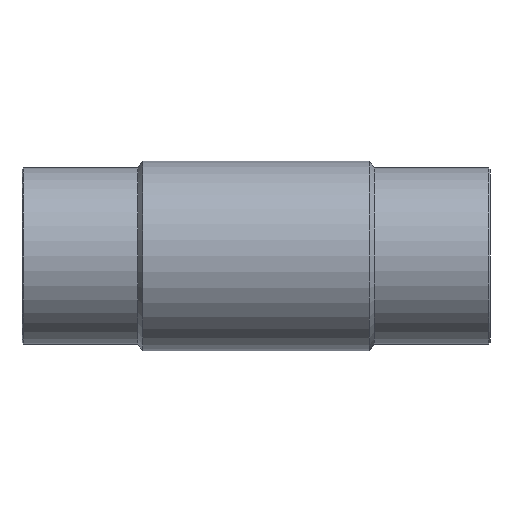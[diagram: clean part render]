
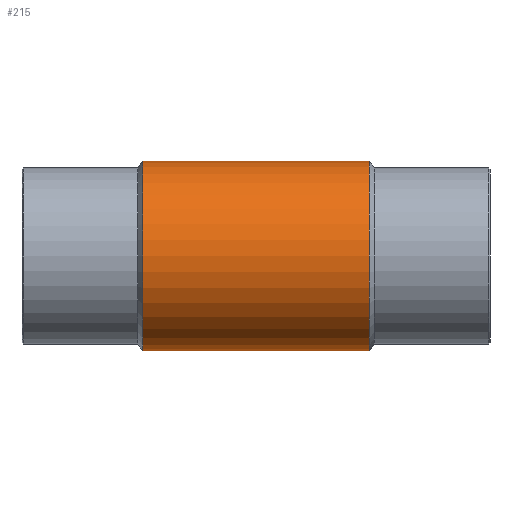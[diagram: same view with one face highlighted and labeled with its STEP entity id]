
A CAD part, front view. The second image highlights one B-rep face of the part: STEP entity #215.
In plain terms, the highlighted cylindrical face has radius 86 mm (diameter 172 mm), a full revolution.
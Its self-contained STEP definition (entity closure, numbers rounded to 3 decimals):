
#33=CIRCLE('',#250,86.);
#35=CIRCLE('',#255,86.);
#52=ORIENTED_EDGE('',*,*,#94,.T.);
#53=ORIENTED_EDGE('',*,*,#95,.T.);
#54=ORIENTED_EDGE('',*,*,#96,.F.);
#55=ORIENTED_EDGE('',*,*,#92,.T.);
#92=EDGE_CURVE('',#113,#113,#33,.T.);
#94=EDGE_CURVE('',#115,#116,#130,.T.);
#95=EDGE_CURVE('',#116,#115,#131,.F.);
#96=EDGE_CURVE('',#117,#117,#35,.T.);
#113=VERTEX_POINT('',#369);
#115=VERTEX_POINT('',#374);
#116=VERTEX_POINT('',#375);
#117=VERTEX_POINT('',#378);
#130=ELLIPSE('',#253,128.144,86.);
#131=ELLIPSE('',#254,128.144,86.);
#139=EDGE_LOOP('',(#52,#53));
#140=EDGE_LOOP('',(#54));
#141=EDGE_LOOP('',(#55));
#175=FACE_BOUND('',#139,.T.);
#176=FACE_BOUND('',#140,.T.);
#177=FACE_BOUND('',#141,.T.);
#207=CYLINDRICAL_SURFACE('',#252,86.);
#215=ADVANCED_FACE('',(#175,#176,#177),#207,.T.);
#250=AXIS2_PLACEMENT_3D('',#368,#295,#296);
#252=AXIS2_PLACEMENT_3D('',#372,#299,#300);
#253=AXIS2_PLACEMENT_3D('',#373,#301,#302);
#254=AXIS2_PLACEMENT_3D('',#376,#303,#304);
#255=AXIS2_PLACEMENT_3D('',#377,#305,#306);
#295=DIRECTION('',(-1.,0.,0.));
#296=DIRECTION('',(0.,0.,1.));
#299=DIRECTION('',(-1.,0.,0.));
#300=DIRECTION('',(0.,0.,1.));
#301=DIRECTION('',(0.671,-0.741,0.));
#302=DIRECTION('',(-0.741,-0.671,0.));
#303=DIRECTION('',(0.671,0.741,0.));
#304=DIRECTION('',(-0.741,0.671,0.));
#305=DIRECTION('',(-1.,0.,0.));
#306=DIRECTION('',(0.,0.,1.));
#368=CARTESIAN_POINT('',(103.,0.,0.));
#369=CARTESIAN_POINT('',(103.,0.,86.));
#372=CARTESIAN_POINT('',(-60.,0.,0.));
#373=CARTESIAN_POINT('',(0.,0.,0.));
#374=CARTESIAN_POINT('',(0.,0.,-86.));
#375=CARTESIAN_POINT('',(0.,0.,86.));
#376=CARTESIAN_POINT('',(0.,0.,0.));
#377=CARTESIAN_POINT('',(-103.,0.,0.));
#378=CARTESIAN_POINT('',(-103.,0.,86.));
